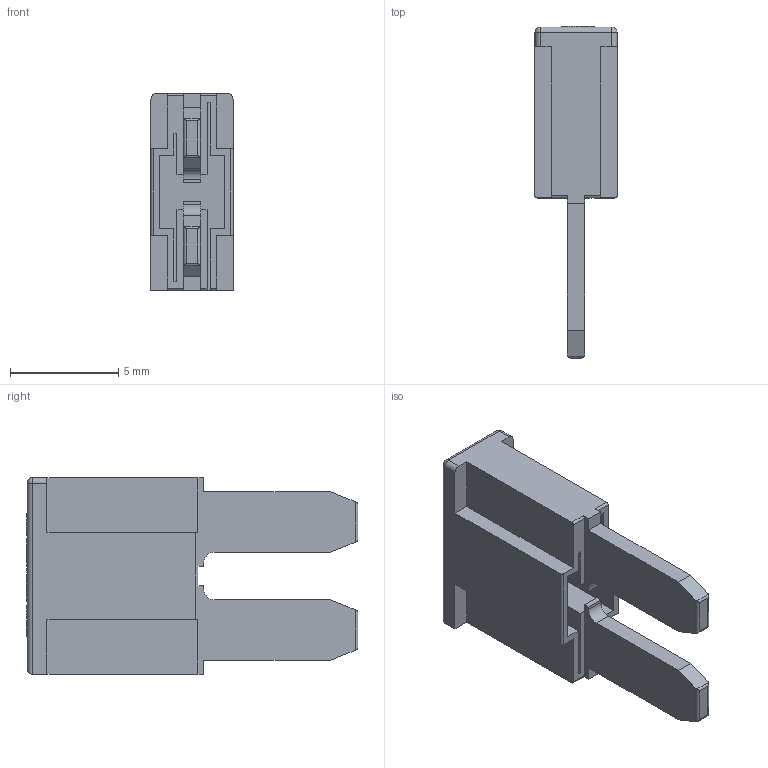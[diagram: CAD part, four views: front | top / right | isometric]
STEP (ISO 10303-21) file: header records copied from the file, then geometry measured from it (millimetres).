
FILE_DESCRIPTION(/* description */ (''),/* implementation_level */ '2;1');
FILE_NAME(/* name */ 'C:\Users\Hani\Desktop\work\ANT\ANT.stp',/* time_stamp */ '2021-10-15T13:14:17-07:00',/* author */ ('Hani'),/* organization */ (''),/* preprocessor_version */ 'ST-DEVELOPER v17',/* originating_system */ 'Autodesk Inventor 2019',/* authorisation */ '');
FILE_SCHEMA (('AUTOMOTIVE_DESIGN { 1 0 10303 214 3 1 1 }'));
Length unit declared in the file: inch
Products named in the file (1): ANT
Bounding box: 3.8 x 15.35 x 9.1 mm (x, y, z)
Volume: 195 mm3; surface area: 588.7 mm2
Topology: 1 solids, 1 shells, 223 faces, 615 edges, 406 vertices
Faces by surface type: plane 131, bspline 67, cylinder 23, sphere 2
Entity records: 7652 total; most frequent: CARTESIAN_POINT 2332, ORIENTED_EDGE 1230, DIRECTION 839, EDGE_CURVE 615, LINE 437, VECTOR 437, VERTEX_POINT 406, EDGE_LOOP 235
